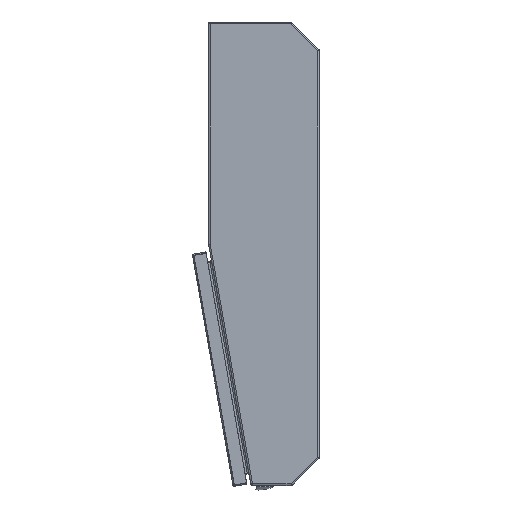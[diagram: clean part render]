
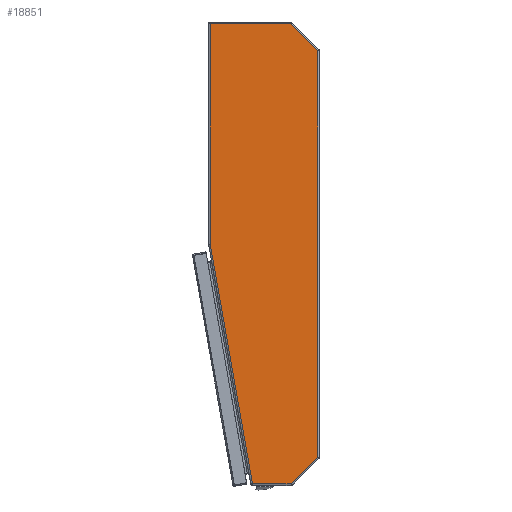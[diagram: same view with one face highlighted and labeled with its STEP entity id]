
A CAD part, left-side view. The second image highlights one B-rep face of the part: STEP entity #18851.
In plain terms, the highlighted planar face has unit normal (-1, 0, 0).
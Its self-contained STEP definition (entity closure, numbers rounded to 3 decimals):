
#651 = VERTEX_POINT ( 'NONE', #22109 ) ;
#718 = DIRECTION ( 'NONE',  ( 0., -0.707, 0.707 ) ) ;
#1015 = VERTEX_POINT ( 'NONE', #7039 ) ;
#1043 = DIRECTION ( 'NONE',  ( 0., 0., -1. ) ) ;
#1498 = EDGE_CURVE ( 'NONE', #10919, #5601, #22863, .T. ) ;
#1922 = VECTOR ( 'NONE', #19279, 1000. ) ;
#2120 = CARTESIAN_POINT ( 'NONE',  ( -400., 91.179, -16.077 ) ) ;
#2533 = CARTESIAN_POINT ( 'NONE',  ( -400., -231.825, -231.825 ) ) ;
#3886 = DIRECTION ( 'NONE',  ( 0., 0., -1. ) ) ;
#4466 = CARTESIAN_POINT ( 'NONE',  ( -400., 97., 16.938 ) ) ;
#4921 = CARTESIAN_POINT ( 'NONE',  ( -400., -47.772, 414.892 ) ) ;
#5400 = VECTOR ( 'NONE', #7807, 1000. ) ;
#5601 = VERTEX_POINT ( 'NONE', #23162 ) ;
#5968 = VECTOR ( 'NONE', #14315, 1000. ) ;
#6072 = DIRECTION ( 'NONE',  ( 0., 0., 1. ) ) ;
#6232 = ORIENTED_EDGE ( 'NONE', *, *, #10933, .T. ) ;
#6855 = ORIENTED_EDGE ( 'NONE', *, *, #16750, .T. ) ;
#6966 = CARTESIAN_POINT ( 'NONE',  ( -400., -231.332, 231.332 ) ) ;
#7039 = CARTESIAN_POINT ( 'NONE',  ( -400., -97., -366.65 ) ) ;
#7397 = FACE_OUTER_BOUND ( 'NONE', #21649, .T. ) ;
#7516 = PLANE ( 'NONE',  #15997 ) ;
#7604 = VECTOR ( 'NONE', #1043, 1000. ) ;
#7807 = DIRECTION ( 'NONE',  ( 0., -0.174, -0.985 ) ) ;
#7950 = VECTOR ( 'NONE', #16368, 1000. ) ;
#8784 = ORIENTED_EDGE ( 'NONE', *, *, #21942, .T. ) ;
#9911 = ORIENTED_EDGE ( 'NONE', *, *, #19759, .T. ) ;
#10465 = CARTESIAN_POINT ( 'NONE',  ( -400., 0., 0. ) ) ;
#10919 = VERTEX_POINT ( 'NONE', #4466 ) ;
#10933 = EDGE_CURVE ( 'NONE', #11224, #1015, #22441, .T. ) ;
#10965 = CARTESIAN_POINT ( 'NONE',  ( -400., 0., -414.892 ) ) ;
#11224 = VERTEX_POINT ( 'NONE', #12556 ) ;
#11576 = VERTEX_POINT ( 'NONE', #4921 ) ;
#11945 = CARTESIAN_POINT ( 'NONE',  ( -400., 0., 414.892 ) ) ;
#12556 = CARTESIAN_POINT ( 'NONE',  ( -400., -48.757, -414.892 ) ) ;
#14056 = VECTOR ( 'NONE', #6072, 1000. ) ;
#14315 = DIRECTION ( 'NONE',  ( 0., 0.707, 0.707 ) ) ;
#14886 = LINE ( 'NONE', #18835, #14056 ) ;
#15040 = EDGE_CURVE ( 'NONE', #11576, #20042, #23021, .T. ) ;
#15997 = AXIS2_PLACEMENT_3D ( 'NONE', #10465, #16785, #3886 ) ;
#16368 = DIRECTION ( 'NONE',  ( 0., -1., 0. ) ) ;
#16750 = EDGE_CURVE ( 'NONE', #20042, #10919, #17566, .T. ) ;
#16785 = DIRECTION ( 'NONE',  ( 1., 0., 0. ) ) ;
#17566 = LINE ( 'NONE', #23125, #7604 ) ;
#17805 = CARTESIAN_POINT ( 'NONE',  ( -400., 97., 414.892 ) ) ;
#17992 = ORIENTED_EDGE ( 'NONE', *, *, #1498, .T. ) ;
#18412 = LINE ( 'NONE', #10965, #7950 ) ;
#18835 = CARTESIAN_POINT ( 'NONE',  ( -400., -97., 0. ) ) ;
#18851 = ADVANCED_FACE ( 'NONE', ( #7397 ), #7516, .F. ) ;
#18912 = EDGE_CURVE ( 'NONE', #651, #11576, #20282, .T. ) ;
#19279 = DIRECTION ( 'NONE',  ( 0., 1., 0. ) ) ;
#19759 = EDGE_CURVE ( 'NONE', #5601, #11224, #18412, .T. ) ;
#20042 = VERTEX_POINT ( 'NONE', #17805 ) ;
#20282 = LINE ( 'NONE', #6966, #5968 ) ;
#21621 = ORIENTED_EDGE ( 'NONE', *, *, #18912, .T. ) ;
#21649 = EDGE_LOOP ( 'NONE', ( #21621, #22487, #6855, #17992, #9911, #6232, #8784 ) ) ;
#21942 = EDGE_CURVE ( 'NONE', #1015, #651, #14886, .T. ) ;
#22109 = CARTESIAN_POINT ( 'NONE',  ( -400., -97., 365.665 ) ) ;
#22441 = LINE ( 'NONE', #2533, #23118 ) ;
#22487 = ORIENTED_EDGE ( 'NONE', *, *, #15040, .T. ) ;
#22863 = LINE ( 'NONE', #2120, #5400 ) ;
#23021 = LINE ( 'NONE', #11945, #1922 ) ;
#23118 = VECTOR ( 'NONE', #718, 1000. ) ;
#23125 = CARTESIAN_POINT ( 'NONE',  ( -400., 97., 0. ) ) ;
#23162 = CARTESIAN_POINT ( 'NONE',  ( -400., 20.857, -414.892 ) ) ;
